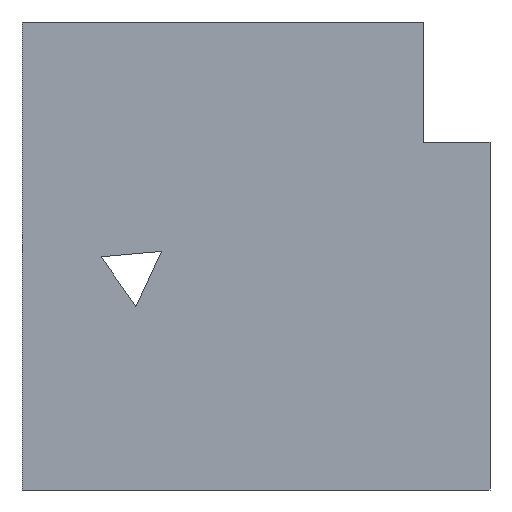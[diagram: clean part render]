
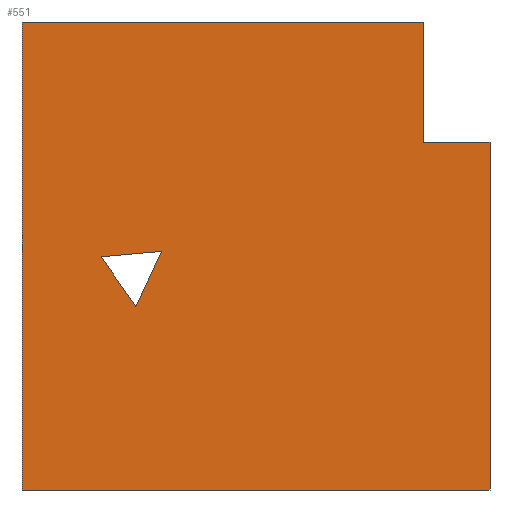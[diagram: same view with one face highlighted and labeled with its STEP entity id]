
A CAD part, front view. The second image highlights one B-rep face of the part: STEP entity #551.
In plain terms, the highlighted planar face has unit normal (0, -1, 0).
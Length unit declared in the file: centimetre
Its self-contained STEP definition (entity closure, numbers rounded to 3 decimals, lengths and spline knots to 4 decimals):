
#4 = DIRECTION ( 'NONE',  ( 1., 0., 0. ) ) ;
#6 = VECTOR ( 'NONE', #199, 100. ) ;
#8 = CARTESIAN_POINT ( 'NONE',  ( 168.9034, 0., 498.3467 ) ) ;
#27 = ORIENTED_EDGE ( 'NONE', *, *, #71, .F. ) ;
#33 = VERTEX_POINT ( 'NONE', #537 ) ;
#44 = ORIENTED_EDGE ( 'NONE', *, *, #201, .T. ) ;
#49 = VERTEX_POINT ( 'NONE', #436 ) ;
#50 = LINE ( 'NONE', #482, #466 ) ;
#57 = LINE ( 'NONE', #559, #282 ) ;
#71 = EDGE_CURVE ( 'NONE', #686, #646, #57, .T. ) ;
#75 = CARTESIAN_POINT ( 'NONE',  ( 0., 0., 0. ) ) ;
#92 = EDGE_LOOP ( 'NONE', ( #638, #624, #27, #44, #317, #635 ) ) ;
#103 = CARTESIAN_POINT ( 'NONE',  ( 1000., 0., 1000. ) ) ;
#114 = CARTESIAN_POINT ( 'NONE',  ( 857.2771, 0., 1000. ) ) ;
#124 = CARTESIAN_POINT ( 'NONE',  ( 243.4393, 0., 392.2897 ) ) ;
#143 = VECTOR ( 'NONE', #412, 100. ) ;
#148 = FACE_BOUND ( 'NONE', #533, .T. ) ;
#163 = DIRECTION ( 'NONE',  ( 1., 0., 0. ) ) ;
#186 = CARTESIAN_POINT ( 'NONE',  ( 298.0194, 0., 509.8682 ) ) ;
#199 = DIRECTION ( 'NONE',  ( -0.421, 0., -0.907 ) ) ;
#201 = EDGE_CURVE ( 'NONE', #686, #202, #398, .T. ) ;
#202 = VERTEX_POINT ( 'NONE', #75 ) ;
#211 = PLANE ( 'NONE',  #223 ) ;
#214 = LINE ( 'NONE', #473, #6 ) ;
#223 = AXIS2_PLACEMENT_3D ( 'NONE', #538, #310, #526 ) ;
#232 = EDGE_CURVE ( 'NONE', #646, #33, #236, .T. ) ;
#236 = LINE ( 'NONE', #397, #508 ) ;
#246 = LINE ( 'NONE', #186, #143 ) ;
#250 = VERTEX_POINT ( 'NONE', #8 ) ;
#256 = VECTOR ( 'NONE', #345, 100. ) ;
#264 = ORIENTED_EDGE ( 'NONE', *, *, #460, .T. ) ;
#266 = CARTESIAN_POINT ( 'NONE',  ( 298.0194, 0., 509.8682 ) ) ;
#282 = VECTOR ( 'NONE', #4, 100. ) ;
#283 = LINE ( 'NONE', #500, #386 ) ;
#310 = DIRECTION ( 'NONE',  ( 0., 1., 0. ) ) ;
#317 = ORIENTED_EDGE ( 'NONE', *, *, #574, .T. ) ;
#319 = DIRECTION ( 'NONE',  ( 0., 0., -1. ) ) ;
#328 = VERTEX_POINT ( 'NONE', #124 ) ;
#345 = DIRECTION ( 'NONE',  ( 0., 0., -1. ) ) ;
#361 = EDGE_CURVE ( 'NONE', #328, #250, #283, .T. ) ;
#386 = VECTOR ( 'NONE', #558, 100. ) ;
#397 = CARTESIAN_POINT ( 'NONE',  ( 857.2771, 0., 743.4511 ) ) ;
#398 = LINE ( 'NONE', #506, #256 ) ;
#410 = DIRECTION ( 'NONE',  ( 1., 0., 0. ) ) ;
#412 = DIRECTION ( 'NONE',  ( 0.996, 0., 0.089 ) ) ;
#436 = CARTESIAN_POINT ( 'NONE',  ( 1000., 0., 0. ) ) ;
#455 = CARTESIAN_POINT ( 'NONE',  ( 857.2771, 0., 743.4511 ) ) ;
#460 = EDGE_CURVE ( 'NONE', #250, #593, #246, .T. ) ;
#466 = VECTOR ( 'NONE', #163, 100. ) ;
#470 = LINE ( 'NONE', #455, #488 ) ;
#473 = CARTESIAN_POINT ( 'NONE',  ( 243.4393, 0., 392.2897 ) ) ;
#475 = EDGE_CURVE ( 'NONE', #33, #536, #470, .T. ) ;
#479 = ORIENTED_EDGE ( 'NONE', *, *, #361, .T. ) ;
#482 = CARTESIAN_POINT ( 'NONE',  ( 0., 0., 0. ) ) ;
#486 = FACE_OUTER_BOUND ( 'NONE', #92, .T. ) ;
#488 = VECTOR ( 'NONE', #410, 100. ) ;
#500 = CARTESIAN_POINT ( 'NONE',  ( 168.9034, 0., 498.3467 ) ) ;
#506 = CARTESIAN_POINT ( 'NONE',  ( 0., 0., 1000. ) ) ;
#508 = VECTOR ( 'NONE', #549, 100. ) ;
#509 = CARTESIAN_POINT ( 'NONE',  ( 1000., 0., 743.4511 ) ) ;
#520 = ORIENTED_EDGE ( 'NONE', *, *, #634, .T. ) ;
#526 = DIRECTION ( 'NONE',  ( 0., 0., 1. ) ) ;
#527 = VECTOR ( 'NONE', #319, 100. ) ;
#533 = EDGE_LOOP ( 'NONE', ( #520, #479, #264 ) ) ;
#536 = VERTEX_POINT ( 'NONE', #509 ) ;
#537 = CARTESIAN_POINT ( 'NONE',  ( 857.2771, 0., 743.4511 ) ) ;
#538 = CARTESIAN_POINT ( 'NONE',  ( 0., 0., 1000. ) ) ;
#542 = CARTESIAN_POINT ( 'NONE',  ( 0., 0., 1000. ) ) ;
#549 = DIRECTION ( 'NONE',  ( 0., 0., -1. ) ) ;
#551 = ADVANCED_FACE ( 'NONE', ( #148, #486 ), #211, .F. ) ;
#556 = EDGE_CURVE ( 'NONE', #536, #49, #648, .T. ) ;
#558 = DIRECTION ( 'NONE',  ( -0.575, 0., 0.818 ) ) ;
#559 = CARTESIAN_POINT ( 'NONE',  ( 0., 0., 1000. ) ) ;
#574 = EDGE_CURVE ( 'NONE', #202, #49, #50, .T. ) ;
#593 = VERTEX_POINT ( 'NONE', #266 ) ;
#624 = ORIENTED_EDGE ( 'NONE', *, *, #232, .F. ) ;
#634 = EDGE_CURVE ( 'NONE', #593, #328, #214, .T. ) ;
#635 = ORIENTED_EDGE ( 'NONE', *, *, #556, .F. ) ;
#638 = ORIENTED_EDGE ( 'NONE', *, *, #475, .F. ) ;
#646 = VERTEX_POINT ( 'NONE', #114 ) ;
#648 = LINE ( 'NONE', #103, #527 ) ;
#686 = VERTEX_POINT ( 'NONE', #542 ) ;
